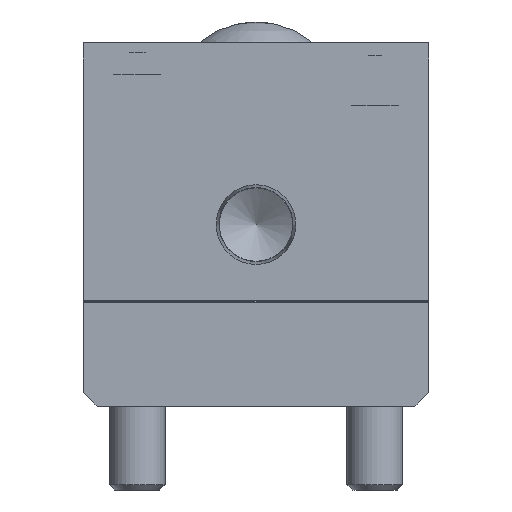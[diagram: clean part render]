
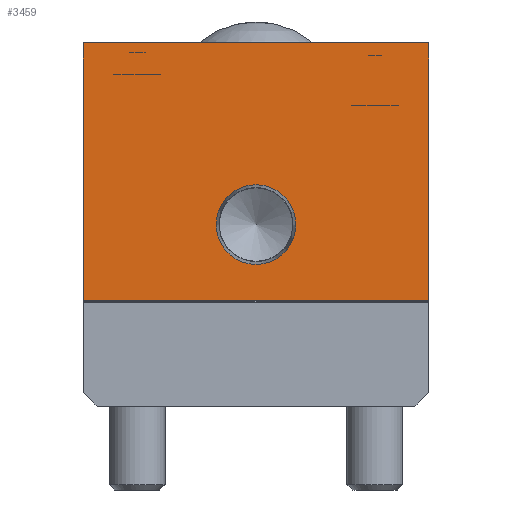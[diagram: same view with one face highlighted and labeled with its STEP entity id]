
A CAD part, front view. The second image highlights one B-rep face of the part: STEP entity #3459.
In plain terms, the highlighted planar face has unit normal (0, -1, 0).
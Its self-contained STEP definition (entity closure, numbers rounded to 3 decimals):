
#237=FACE_BOUND('',#762,.T.);
#329=CIRCLE('',#3681,5.704);
#511=FACE_OUTER_BOUND('',#761,.T.);
#761=EDGE_LOOP('',(#2492,#2493,#2494,#2495));
#762=EDGE_LOOP('',(#2496));
#1085=LINE('',#5144,#1353);
#1088=LINE('',#5149,#1356);
#1090=LINE('',#5157,#1358);
#1104=LINE('',#5193,#1372);
#1353=VECTOR('',#4150,36.9);
#1356=VECTOR('',#4155,49.5);
#1358=VECTOR('',#4163,36.9);
#1372=VECTOR('',#4207,49.5);
#1604=VERTEX_POINT('',#5141);
#1605=VERTEX_POINT('',#5143);
#1606=VERTEX_POINT('',#5147);
#1609=VERTEX_POINT('',#5155);
#1613=VERTEX_POINT('',#5169);
#1925=EDGE_CURVE('',#1605,#1604,#1085,.T.);
#1928=EDGE_CURVE('',#1604,#1606,#1088,.T.);
#1932=EDGE_CURVE('',#1609,#1606,#1090,.T.);
#1937=EDGE_CURVE('',#1613,#1613,#329,.T.);
#1950=EDGE_CURVE('',#1609,#1605,#1104,.T.);
#2492=ORIENTED_EDGE('',*,*,#1950,.T.);
#2493=ORIENTED_EDGE('',*,*,#1925,.T.);
#2494=ORIENTED_EDGE('',*,*,#1928,.T.);
#2495=ORIENTED_EDGE('',*,*,#1932,.F.);
#2496=ORIENTED_EDGE('',*,*,#1937,.T.);
#3129=PLANE('',#3714);
#3459=ADVANCED_FACE('',(#511,#237),#3129,.T.);
#3681=AXIS2_PLACEMENT_3D('',#5170,#4178,#4179);
#3714=AXIS2_PLACEMENT_3D('',#5231,#4261,#4262);
#4150=DIRECTION('',(0.,0.,1.));
#4155=DIRECTION('',(-1.,0.,0.));
#4163=DIRECTION('',(0.,0.,1.));
#4178=DIRECTION('center_axis',(0.,1.,0.));
#4179=DIRECTION('ref_axis',(1.,0.,0.));
#4207=DIRECTION('',(1.,0.,0.));
#4261=DIRECTION('center_axis',(0.,-1.,0.));
#4262=DIRECTION('ref_axis',(0.,0.,-1.));
#5141=CARTESIAN_POINT('',(24.75,0.,52.));
#5143=CARTESIAN_POINT('',(24.75,0.,15.1));
#5144=CARTESIAN_POINT('',(24.75,0.,0.));
#5147=CARTESIAN_POINT('',(-24.75,0.,52.));
#5149=CARTESIAN_POINT('',(24.75,0.,52.));
#5155=CARTESIAN_POINT('',(-24.75,0.,15.1));
#5157=CARTESIAN_POINT('',(-24.75,0.,0.));
#5169=CARTESIAN_POINT('',(5.704,0.,26.));
#5170=CARTESIAN_POINT('Origin',(0.,0.,26.));
#5193=CARTESIAN_POINT('',(24.75,0.,15.1));
#5231=CARTESIAN_POINT('Origin',(24.75,0.,0.));
